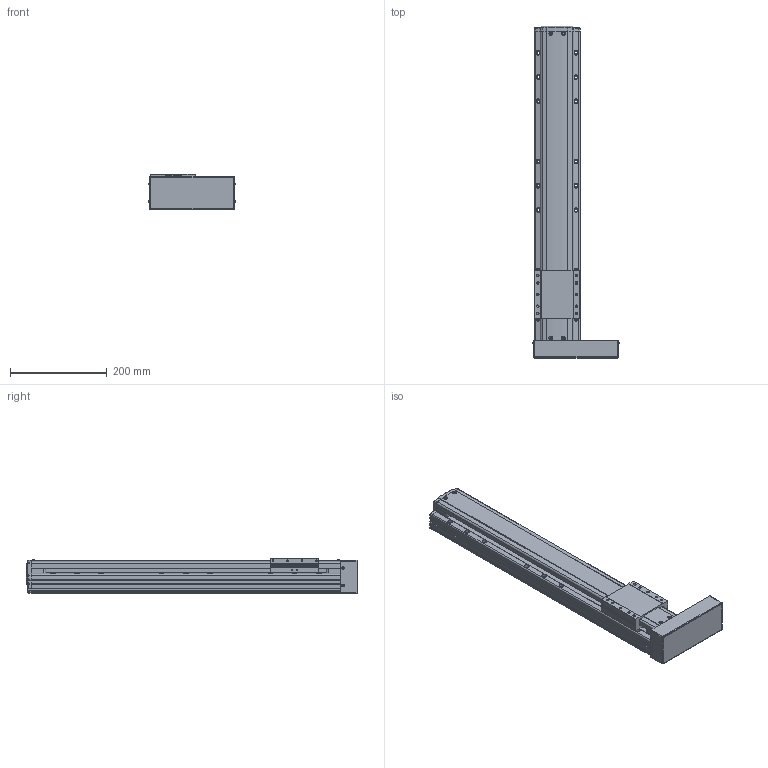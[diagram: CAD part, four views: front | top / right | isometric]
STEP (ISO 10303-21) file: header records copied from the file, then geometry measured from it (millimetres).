
FILE_DESCRIPTION(('STEP AP214'),'1');
FILE_NAME('Z:/Web/3D/PSA95/STP/PSA95-450 (3D)/PSA95ㅁㅁ-450PR.stp','2014-07-03T00:28:54',(' '),(' '),'Spatial InterOp 3D',' ',' ');
FILE_SCHEMA(('automotive_design'));
Length unit declared in the file: millimetre
Products named in the file (23): BASE; RRCV; 스크루 : Round - M4.0 x 10.0; 너트 : Square - M10.0 x 220.7419; RR1500; FRCV-090; 스크루 : Round - M4.0 x 6.0; SLBL-PA90; MOTOR PLATE COVER; 스크루 : Round - M3.0 x 6.0
Bounding box: 179.13 x 686.5 x 74 mm (x, y, z)
Volume: 3952776.1 mm3; surface area: 412814.5 mm2
Topology: 23 solids, 23 shells, 1891 faces, 5078 edges, 3234 vertices
Faces by surface type: plane 1051, cylinder 571, cone 189, sphere 42, bspline 24, torus 14
Entity records: 76262 total; most frequent: CARTESIAN_POINT 13185, DIRECTION 9972, ORIENTED_EDGE 9900, EDGE_CURVE 4950, LINE 3382, VECTOR 3382, AXIS2_PLACEMENT_3D 3295, VERTEX_POINT 3234
